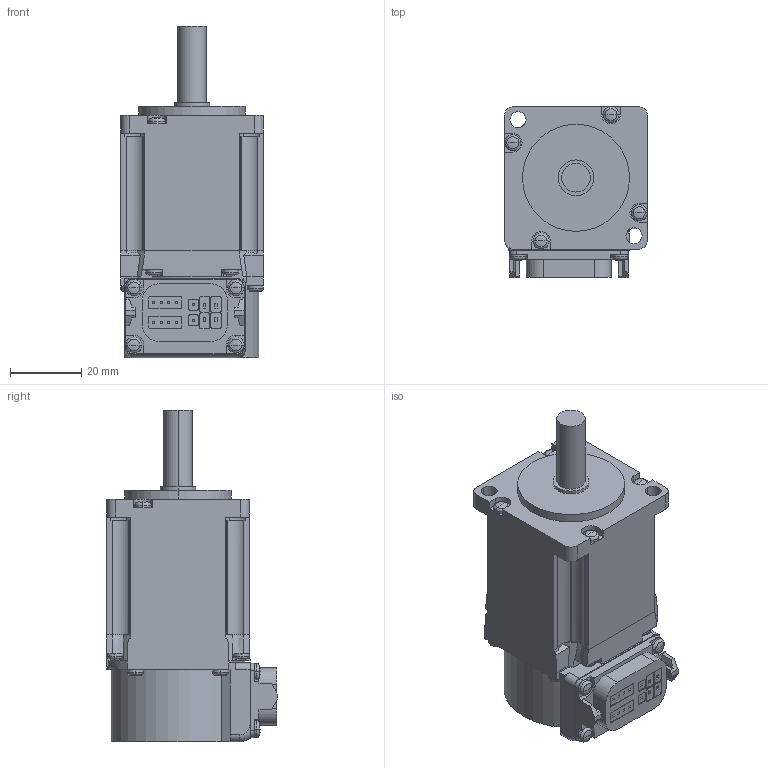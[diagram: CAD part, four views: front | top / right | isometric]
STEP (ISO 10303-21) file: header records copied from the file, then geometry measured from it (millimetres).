
FILE_DESCRIPTION((''),'2;1');
FILE_NAME('HK-KT13W_-_ASM','2019-01-15T',('XE90682'),(''),'CREO PARAMETRIC BY PTC INC, 2016380','CREO PARAMETRIC BY PTC INC, 2016380','');
FILE_SCHEMA(('CONFIG_CONTROL_DESIGN'));
Length unit declared in the file: millimetre
Products named in the file (1): HK-KT13W_-_ASM
Bounding box: 40 x 47.85 x 93 mm (x, y, z)
Volume: 99742.6 mm3; surface area: 15958.2 mm2
Topology: 1 solids, 1 shells, 466 faces, 1224 edges, 765 vertices
Faces by surface type: plane 251, cylinder 137, torus 34, sphere 32, bspline 12
Entity records: 14495 total; most frequent: CARTESIAN_POINT 2874, DIRECTION 2475, ORIENTED_EDGE 2384, EDGE_CURVE 1192, AXIS2_PLACEMENT_3D 854, VECTOR 767, LINE 767, VERTEX_POINT 765
